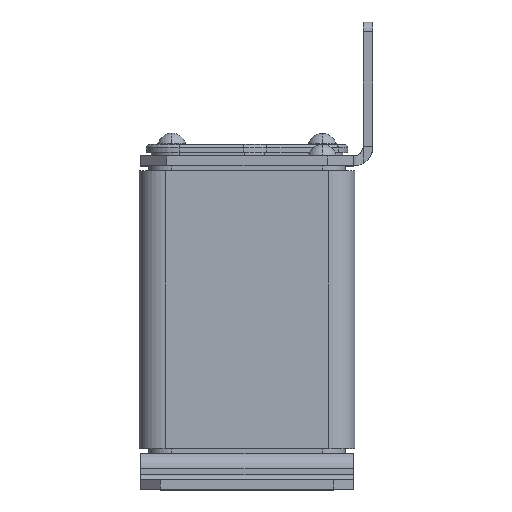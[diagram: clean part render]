
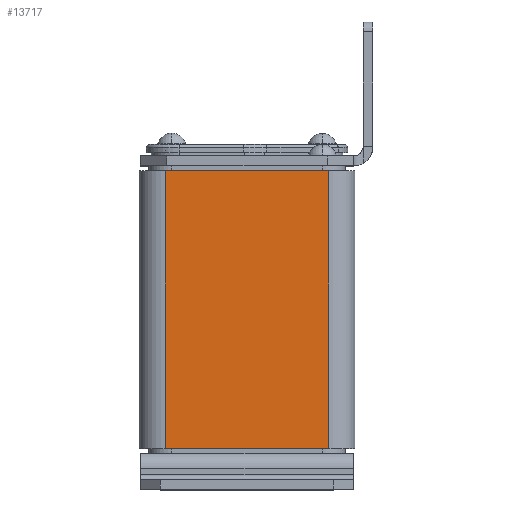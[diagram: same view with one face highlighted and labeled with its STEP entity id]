
A CAD part, top view. The second image highlights one B-rep face of the part: STEP entity #13717.
In plain terms, the highlighted planar face has unit normal (0, 0, 1).
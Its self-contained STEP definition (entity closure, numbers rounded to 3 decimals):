
#69 = CARTESIAN_POINT ( 'NONE',  ( -25., 42.5, 33. ) ) ;
#162 = AXIS2_PLACEMENT_3D ( 'NONE', #12745, #2490, #11676 ) ;
#1171 = DIRECTION ( 'NONE',  ( 0., -1., 0. ) ) ;
#1192 = CARTESIAN_POINT ( 'NONE',  ( -25., -42.5, 33. ) ) ;
#1198 = ORIENTED_EDGE ( 'NONE', *, *, #3743, .F. ) ;
#1473 = VERTEX_POINT ( 'NONE', #6841 ) ;
#1858 = ORIENTED_EDGE ( 'NONE', *, *, #6604, .T. ) ;
#2490 = DIRECTION ( 'NONE',  ( 0., 0., -1. ) ) ;
#2576 = CARTESIAN_POINT ( 'NONE',  ( 25., -42.5, 33. ) ) ;
#2760 = VECTOR ( 'NONE', #12932, 1000. ) ;
#3002 = LINE ( 'NONE', #8995, #9528 ) ;
#3743 = EDGE_CURVE ( 'NONE', #1473, #16623, #3002, .T. ) ;
#5399 = LINE ( 'NONE', #69, #15159 ) ;
#6355 = VERTEX_POINT ( 'NONE', #1192 ) ;
#6489 = CARTESIAN_POINT ( 'NONE',  ( -25., -42.5, 33. ) ) ;
#6567 = ORIENTED_EDGE ( 'NONE', *, *, #8119, .F. ) ;
#6579 = EDGE_CURVE ( 'NONE', #6355, #16623, #11950, .T. ) ;
#6604 = EDGE_CURVE ( 'NONE', #8557, #6355, #5399, .T. ) ;
#6841 = CARTESIAN_POINT ( 'NONE',  ( 25., 42.5, 33. ) ) ;
#7151 = LINE ( 'NONE', #13649, #9792 ) ;
#8119 = EDGE_CURVE ( 'NONE', #8557, #1473, #7151, .T. ) ;
#8557 = VERTEX_POINT ( 'NONE', #12273 ) ;
#8995 = CARTESIAN_POINT ( 'NONE',  ( 25., 42.5, 33. ) ) ;
#9010 = PLANE ( 'NONE',  #162 ) ;
#9528 = VECTOR ( 'NONE', #1171, 1000. ) ;
#9575 = FACE_OUTER_BOUND ( 'NONE', #14052, .T. ) ;
#9792 = VECTOR ( 'NONE', #10993, 1000. ) ;
#10562 = DIRECTION ( 'NONE',  ( 0., -1., 0. ) ) ;
#10993 = DIRECTION ( 'NONE',  ( 1., 0., 0. ) ) ;
#11676 = DIRECTION ( 'NONE',  ( -1., 0., 0. ) ) ;
#11950 = LINE ( 'NONE', #6489, #2760 ) ;
#12273 = CARTESIAN_POINT ( 'NONE',  ( -25., 42.5, 33. ) ) ;
#12745 = CARTESIAN_POINT ( 'NONE',  ( -25., 42.5, 33. ) ) ;
#12932 = DIRECTION ( 'NONE',  ( 1., 0., 0. ) ) ;
#13649 = CARTESIAN_POINT ( 'NONE',  ( -25., 42.5, 33. ) ) ;
#13717 = ADVANCED_FACE ( 'NONE', ( #9575 ), #9010, .F. ) ;
#14052 = EDGE_LOOP ( 'NONE', ( #14903, #1198, #6567, #1858 ) ) ;
#14903 = ORIENTED_EDGE ( 'NONE', *, *, #6579, .T. ) ;
#15159 = VECTOR ( 'NONE', #10562, 1000. ) ;
#16623 = VERTEX_POINT ( 'NONE', #2576 ) ;
